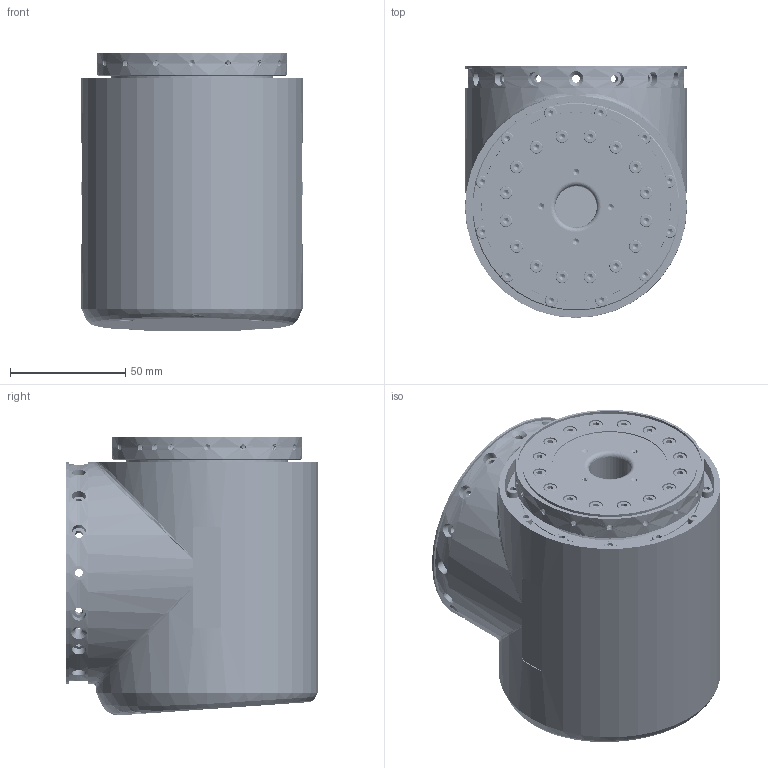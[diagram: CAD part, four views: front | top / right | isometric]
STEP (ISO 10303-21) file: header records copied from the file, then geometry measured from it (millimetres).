
FILE_DESCRIPTION (( 'STEP AP203' ), '1' );
FILE_NAME ('eRob90H｡ﾁ｡ﾁT-XX-18CX_V3_MC2A.CX.XX.step', '2025-03-20T11:32:16', ( 'Windows User' ), ( 'P R C' ), 'SwSTEP 2.0', 'SolidWorks 2021', '' );
FILE_SCHEMA (( 'CONFIG_CONTROL_DESIGN' ));
Length unit declared in the file: millimetre
Products named in the file (1): eRob90H××T-XX-18CX_V3_MC2A.CX.XX
Bounding box: 96 x 109 x 120.79 mm (x, y, z)
Volume: 709885.6 mm3; surface area: 131758.3 mm2
Topology: 2 solids, 2 shells, 4319 faces, 11639 edges, 7466 vertices
Faces by surface type: plane 2270, cylinder 1396, bspline 372, cone 196, torus 77, sphere 8
Entity records: 240165 total; most frequent: CARTESIAN_POINT 138152, ORIENTED_EDGE 23022, DIRECTION 18970, EDGE_CURVE 11511, VERTEX_POINT 7466, VECTOR 6902, LINE 6902, AXIS2_PLACEMENT_3D 6034
